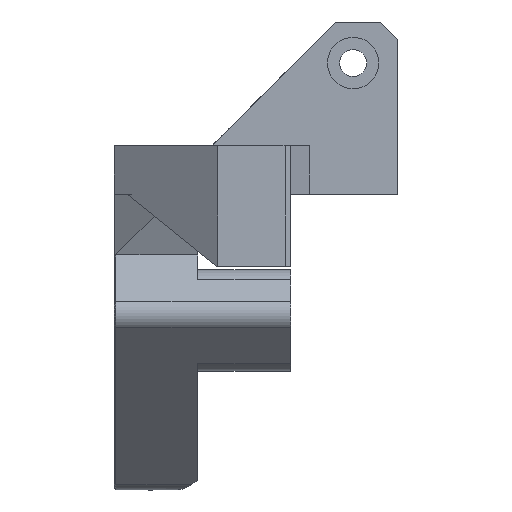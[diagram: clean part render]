
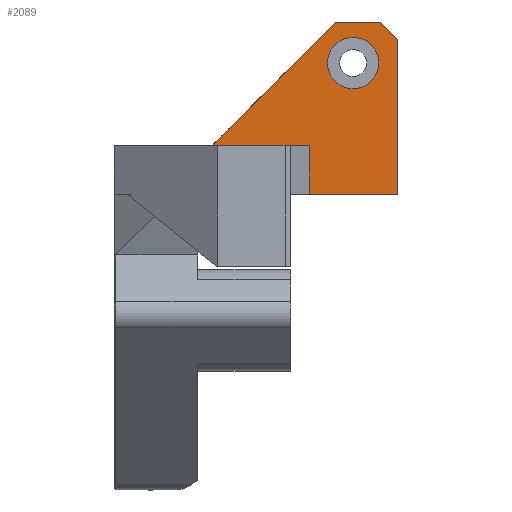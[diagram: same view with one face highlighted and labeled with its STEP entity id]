
A CAD part, left-side view. The second image highlights one B-rep face of the part: STEP entity #2089.
In plain terms, the highlighted planar face has unit normal (-1, 0, 0).
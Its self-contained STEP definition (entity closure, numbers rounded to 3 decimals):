
#33=FACE_BOUND('',#303,.T.);
#177=FACE_OUTER_BOUND('',#302,.T.);
#302=EDGE_LOOP('',(#1467,#1468,#1469,#1470,#1471,#1472,#1473));
#303=EDGE_LOOP('',(#1474));
#450=CIRCLE('',#2223,3.);
#518=LINE('',#2930,#700);
#519=LINE('',#2934,#701);
#543=LINE('',#3075,#725);
#550=LINE('',#3100,#732);
#551=LINE('',#3102,#733);
#552=LINE('',#3104,#734);
#553=LINE('',#3105,#735);
#700=VECTOR('',#2388,10.);
#701=VECTOR('',#2391,10.);
#725=VECTOR('',#2439,10.);
#732=VECTOR('',#2462,10.);
#733=VECTOR('',#2463,10.);
#734=VECTOR('',#2464,10.);
#735=VECTOR('',#2465,10.);
#877=VERTEX_POINT('',#2917);
#883=VERTEX_POINT('',#2928);
#884=VERTEX_POINT('',#2932);
#885=VERTEX_POINT('',#2933);
#927=VERTEX_POINT('',#3099);
#928=VERTEX_POINT('',#3101);
#929=VERTEX_POINT('',#3103);
#930=VERTEX_POINT('',#3106);
#1088=EDGE_CURVE('',#883,#877,#518,.F.);
#1089=EDGE_CURVE('',#884,#885,#519,.T.);
#1128=EDGE_CURVE('',#877,#884,#543,.T.);
#1140=EDGE_CURVE('',#927,#883,#550,.T.);
#1141=EDGE_CURVE('',#928,#927,#551,.T.);
#1142=EDGE_CURVE('',#929,#928,#552,.T.);
#1143=EDGE_CURVE('',#885,#929,#553,.T.);
#1144=EDGE_CURVE('',#930,#930,#450,.T.);
#1467=ORIENTED_EDGE('',*,*,#1089,.F.);
#1468=ORIENTED_EDGE('',*,*,#1128,.F.);
#1469=ORIENTED_EDGE('',*,*,#1088,.F.);
#1470=ORIENTED_EDGE('',*,*,#1140,.F.);
#1471=ORIENTED_EDGE('',*,*,#1141,.F.);
#1472=ORIENTED_EDGE('',*,*,#1142,.F.);
#1473=ORIENTED_EDGE('',*,*,#1143,.F.);
#1474=ORIENTED_EDGE('',*,*,#1144,.T.);
#2031=PLANE('',#2222);
#2089=ADVANCED_FACE('',(#177,#33),#2031,.T.);
#2222=AXIS2_PLACEMENT_3D('',#3098,#2460,#2461);
#2223=AXIS2_PLACEMENT_3D('',#3107,#2466,#2467);
#2388=DIRECTION('',(0.,0.,1.));
#2391=DIRECTION('',(0.,0.,1.));
#2439=DIRECTION('',(0.,1.,0.));
#2460=DIRECTION('center_axis',(-1.,0.,
0.));
#2461=DIRECTION('ref_axis',(0.,1.,0.));
#2462=DIRECTION('',(0.,-0.707,-0.707));
#2463=DIRECTION('',(0.,-1.,0.));
#2464=DIRECTION('',(0.,-0.707,0.707));
#2465=DIRECTION('',(0.,1.,0.));
#2466=DIRECTION('center_axis',(1.,0.,
0.));
#2467=DIRECTION('ref_axis',(0.,-1.,0.));
#2917=CARTESIAN_POINT('',(7.216,19.093,31.968));
#2928=CARTESIAN_POINT('',(7.216,19.093,50.068));
#2930=CARTESIAN_POINT('',(7.216,19.093,37.668));
#2932=CARTESIAN_POINT('',(7.216,29.411,31.968));
#2933=CARTESIAN_POINT('',(7.216,29.411,37.668));
#2934=CARTESIAN_POINT('',(7.216,29.411,33.418));
#3075=CARTESIAN_POINT('',(7.216,30.666,31.968));
#3098=CARTESIAN_POINT('Origin',(7.216,19.093,37.668));
#3099=CARTESIAN_POINT('',(7.216,21.093,52.068));
#3100=CARTESIAN_POINT('',(7.216,16.493,47.468));
#3101=CARTESIAN_POINT('',(7.216,26.343,52.068));
#3102=CARTESIAN_POINT('',(7.216,19.093,52.068));
#3103=CARTESIAN_POINT('',(7.216,40.743,37.668));
#3104=CARTESIAN_POINT('',(7.216,31.731,46.68));
#3105=CARTESIAN_POINT('',(7.216,40.524,37.668));
#3106=CARTESIAN_POINT('',(7.216,27.318,47.277));
#3107=CARTESIAN_POINT('Origin',(7.216,24.318,47.277));
